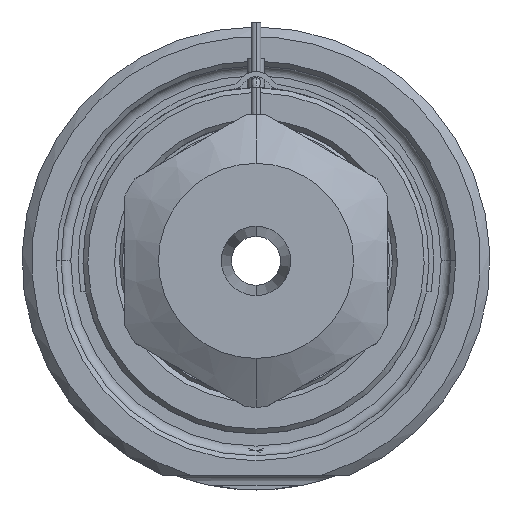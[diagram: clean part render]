
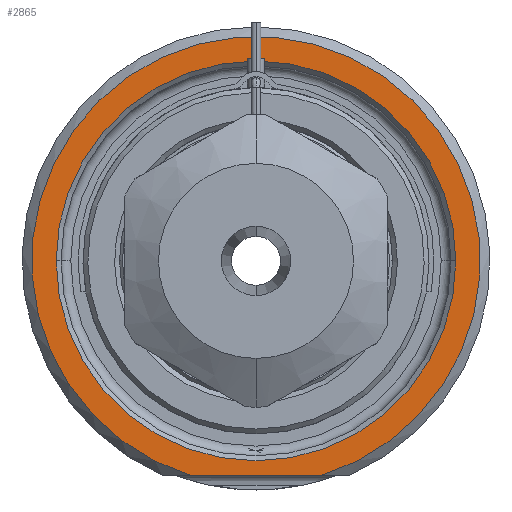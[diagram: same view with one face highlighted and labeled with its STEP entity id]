
A CAD part, front view. The second image highlights one B-rep face of the part: STEP entity #2865.
In plain terms, the highlighted planar face has unit normal (0, -1, 0).
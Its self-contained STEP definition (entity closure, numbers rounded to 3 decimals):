
#1=DIRECTION('',(1.,0.,0.));
#2=VECTOR('',#1,13.416);
#3=CARTESIAN_POINT('',(-6.708,0.,-22.));
#4=LINE('',#3,#2);
#5=CARTESIAN_POINT('',(0.,0.,0.));
#6=DIRECTION('',(0.,1.,0.));
#7=DIRECTION('',(-1.,0.,0.));
#8=AXIS2_PLACEMENT_3D('',#5,#6,#7);
#10=CARTESIAN_POINT('',(0.,0.,0.));
#11=DIRECTION('',(0.,1.,0.));
#12=DIRECTION('',(1.,0.,0.));
#13=AXIS2_PLACEMENT_3D('',#10,#11,#12);
#121=CARTESIAN_POINT('',(0.,0.,0.));
#122=DIRECTION('',(0.,-1.,0.));
#123=DIRECTION('',(0.292,0.,-0.957));
#124=AXIS2_PLACEMENT_3D('',#121,#122,#123);
#2381=CARTESIAN_POINT('',(-20.5,0.,0.));
#2382=CARTESIAN_POINT('',(20.5,0.,0.));
#2383=VERTEX_POINT('',#2381);
#2384=VERTEX_POINT('',#2382);
#2435=CARTESIAN_POINT('',(-6.708,0.,-22.));
#2436=CARTESIAN_POINT('',(6.708,0.,-22.));
#2437=VERTEX_POINT('',#2435);
#2438=VERTEX_POINT('',#2436);
#2848=CARTESIAN_POINT('',(0.,0.,0.));
#2849=DIRECTION('',(0.,-1.,0.));
#2850=DIRECTION('',(1.,0.,0.));
#2851=AXIS2_PLACEMENT_3D('',#2848,#2849,#2850);
#2852=PLANE('',#2851);
#2854=ORIENTED_EDGE('',*,*,#2853,.F.);
#2856=ORIENTED_EDGE('',*,*,#2855,.F.);
#2857=EDGE_LOOP('',(#2854,#2856));
#2858=FACE_OUTER_BOUND('',#2857,.F.);
#2860=ORIENTED_EDGE('',*,*,#2859,.F.);
#2862=ORIENTED_EDGE('',*,*,#2861,.F.);
#2863=EDGE_LOOP('',(#2860,#2862));
#2864=FACE_BOUND('',#2863,.F.);
#2865=ADVANCED_FACE('',(#2858,#2864),#2852,.T.);
#9=CIRCLE('',#8,20.5);
#14=CIRCLE('',#13,20.5);
#125=CIRCLE('',#124,23.);
#2853=EDGE_CURVE('',#2437,#2438,#4,.T.);
#2855=EDGE_CURVE('',#2438,#2437,#125,.T.);
#2859=EDGE_CURVE('',#2383,#2384,#9,.T.);
#2861=EDGE_CURVE('',#2384,#2383,#14,.T.);
